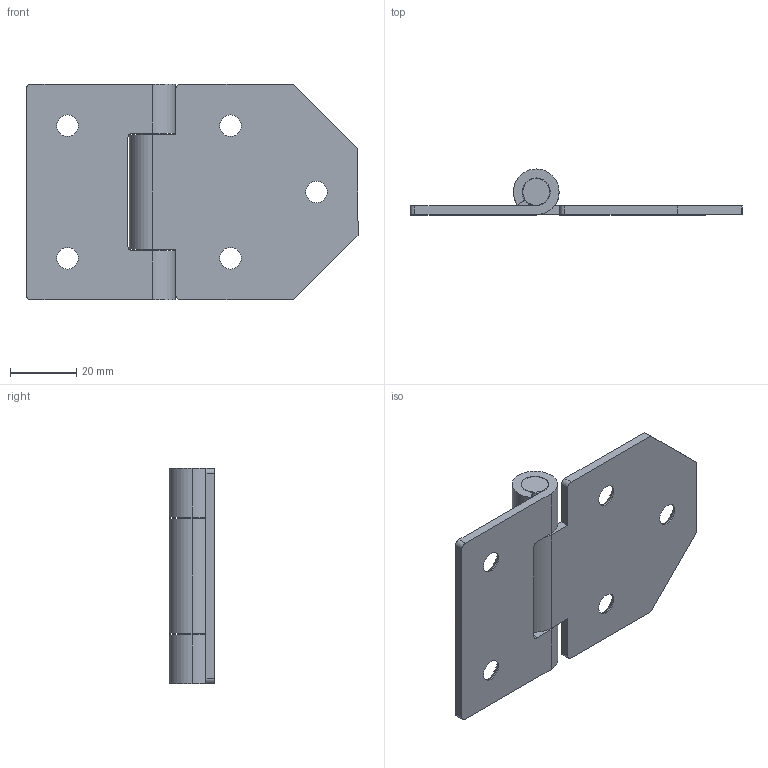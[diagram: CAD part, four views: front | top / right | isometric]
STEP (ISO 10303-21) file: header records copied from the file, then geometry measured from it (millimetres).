
FILE_DESCRIPTION (( 'STEP AP214' ), '1' );
FILE_NAME ('1.STEP', '2023-08-24T00:19:58', ( '' ), ( '' ), 'SwSTEP 2.0', 'SolidWorks 2019', '' );
FILE_SCHEMA (( 'AUTOMOTIVE_DESIGN' ));
Length unit declared in the file: millimetre
Products named in the file (1): 1
Bounding box: 100.2 x 13.8 x 65 mm (x, y, z)
Volume: 23241.9 mm3; surface area: 15437.5 mm2
Topology: 1 solids, 1 shells, 72 faces, 202 edges, 130 vertices
Faces by surface type: cylinder 34, plane 24, cone 14
Entity records: 3196 total; most frequent: DIRECTION 436, CARTESIAN_POINT 411, ORIENTED_EDGE 404, EDGE_CURVE 202, AXIS2_PLACEMENT_3D 163, VERTEX_POINT 130, VECTOR 110, LINE 110
